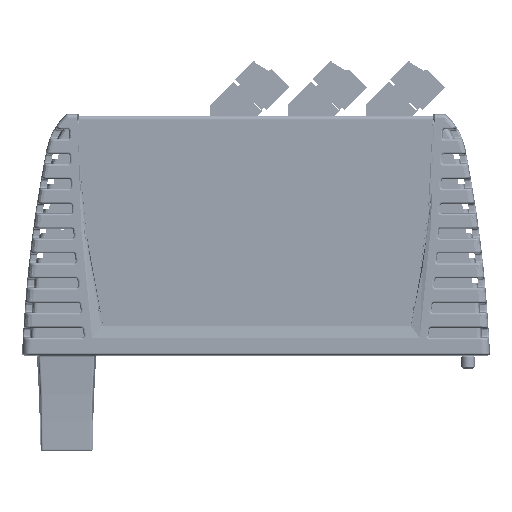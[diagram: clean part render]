
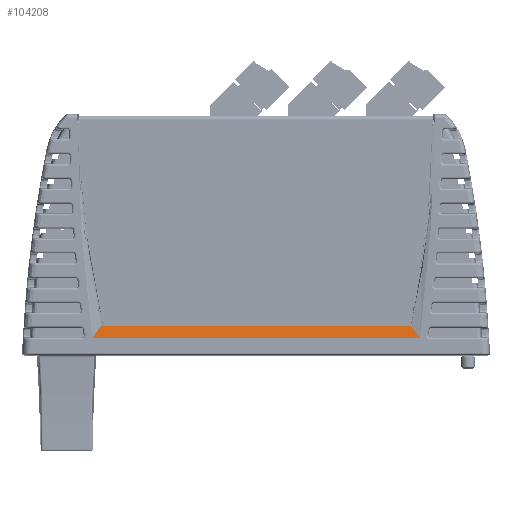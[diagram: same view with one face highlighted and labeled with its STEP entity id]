
A CAD part, left-side view. The second image highlights one B-rep face of the part: STEP entity #104208.
In plain terms, the highlighted planar face has unit normal (-0.986, 0, 0.164).
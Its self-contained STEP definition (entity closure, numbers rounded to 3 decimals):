
#1688 = EDGE_CURVE ( 'NONE', #173137, #187333, #201743, .T. ) ;
#1898 = EDGE_LOOP ( 'NONE', ( #80470, #190626, #135181, #53487 ) ) ;
#6763 = CARTESIAN_POINT ( 'NONE',  ( -8.2, 39., -24.5 ) ) ;
#13791 = CARTESIAN_POINT ( 'NONE',  ( -8.7, -41.25, -27.5 ) ) ;
#14002 = B_SPLINE_CURVE_WITH_KNOTS ( 'NONE', 3,
 ( #13791, #30714, #148126, #74391 ),
 .UNSPECIFIED., .F., .F.,
 ( 4, 4 ),
 ( 0., 1. ),
 .UNSPECIFIED. ) ;
#22440 = CARTESIAN_POINT ( 'NONE',  ( -8.7, -41.25, -27.5 ) ) ;
#25994 = CARTESIAN_POINT ( 'NONE',  ( -8.2, -39., -24.5 ) ) ;
#30714 = CARTESIAN_POINT ( 'NONE',  ( -8.7, -13.75, -27.5 ) ) ;
#32027 = CARTESIAN_POINT ( 'NONE',  ( -8.7, 41.25, -27.5 ) ) ;
#32998 = LINE ( 'NONE', #83743, #117056 ) ;
#35437 = VERTEX_POINT ( 'NONE', #22440 ) ;
#36073 = EDGE_CURVE ( 'NONE', #187333, #35437, #32998, .T. ) ;
#38797 = EDGE_CURVE ( 'NONE', #66094, #173137, #215270, .T. ) ;
#48771 = DIRECTION ( 'NONE',  ( 0.986, 0., -0.164 ) ) ;
#53487 = ORIENTED_EDGE ( 'NONE', *, *, #84138, .F. ) ;
#64571 = AXIS2_PLACEMENT_3D ( 'NONE', #100162, #48771, #133858 ) ;
#66094 = VERTEX_POINT ( 'NONE', #131832 ) ;
#74391 = CARTESIAN_POINT ( 'NONE',  ( -8.7, 41.25, -27.5 ) ) ;
#80470 = ORIENTED_EDGE ( 'NONE', *, *, #36073, .F. ) ;
#81444 = VECTOR ( 'NONE', #132559, 1000. ) ;
#83743 = CARTESIAN_POINT ( 'NONE',  ( -8.2, -39., -24.5 ) ) ;
#84138 = EDGE_CURVE ( 'NONE', #35437, #66094, #14002, .T. ) ;
#92076 = FACE_OUTER_BOUND ( 'NONE', #1898, .T. ) ;
#100162 = CARTESIAN_POINT ( 'NONE',  ( -8.7, 41.745, -27.5 ) ) ;
#104208 = ADVANCED_FACE ( 'NONE', ( #92076 ), #117001, .F. ) ;
#112577 = VECTOR ( 'NONE', #196547, 1000. ) ;
#117001 = PLANE ( 'NONE',  #64571 ) ;
#117056 = VECTOR ( 'NONE', #201040, 1000. ) ;
#131832 = CARTESIAN_POINT ( 'NONE',  ( -8.7, 41.25, -27.5 ) ) ;
#132559 = DIRECTION ( 'NONE',  ( 0.132, -0.595, 0.793 ) ) ;
#133858 = DIRECTION ( 'NONE',  ( -0.164, 0., -0.986 ) ) ;
#135181 = ORIENTED_EDGE ( 'NONE', *, *, #38797, .F. ) ;
#148126 = CARTESIAN_POINT ( 'NONE',  ( -8.7, 13.75, -27.5 ) ) ;
#173137 = VERTEX_POINT ( 'NONE', #6763 ) ;
#187333 = VERTEX_POINT ( 'NONE', #25994 ) ;
#190626 = ORIENTED_EDGE ( 'NONE', *, *, #1688, .F. ) ;
#196285 = CARTESIAN_POINT ( 'NONE',  ( -8.2, -39.468, -24.5 ) ) ;
#196547 = DIRECTION ( 'NONE',  ( 0., -1., 0. ) ) ;
#201040 = DIRECTION ( 'NONE',  ( -0.132, -0.595, -0.793 ) ) ;
#201743 = LINE ( 'NONE', #196285, #112577 ) ;
#215270 = LINE ( 'NONE', #32027, #81444 ) ;
